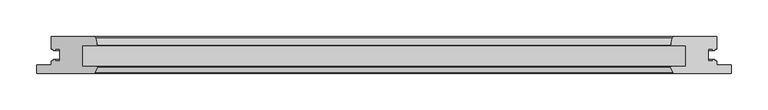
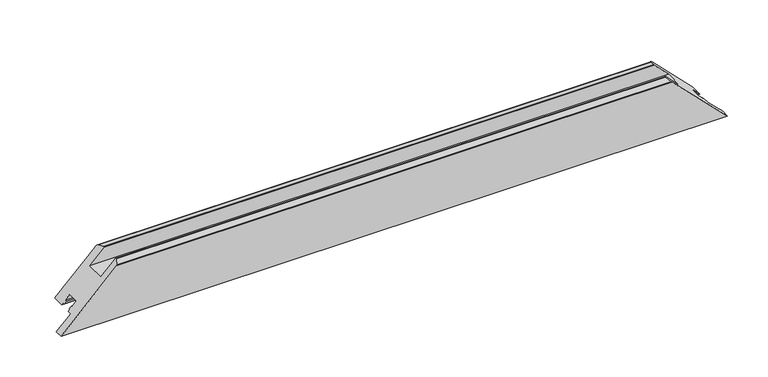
"""IFC4 building model written with IfcOpenShell, lengths in millimetres: proxy geometry, Weiku - Montante - Folha 02.2.01.017 : Weiku - Montante - Folha 02.2.01.017."""

from ifc_helpers import new_model, si_unit, frame, origin, place, context, project, spatial, ellipse_curve, source, transform, mapped, element, save
from ifc_brep_helpers import plane_surface, cylinder_surface, advanced_brep


def generic_models_91e15c3d(model_context):
    return source(origin(), model_context, "Body", "AdvancedBrep", [
        advanced_brep(
        [(-452.0, 50.0, 20.0), (-394.9997332, 50.0, 77.0002668), (394.9997332, 50.0, 77.0002668), (452.0, 50.0, 20.0), (-472.0, 0.0, 0.0), (472.0, 0.0, 0.0), (393.9872264, 0.0, 78.0127736), (-393.9872264, 0.0, 78.0127736), (-452.0, 33.1, 20.0), (-449.8, 33.1, 22.2), (-449.8, 31.1, 22.2), (-447.0, 31.1, 25.0), (-447.0, 33.1, 25.0), (-440.5, 33.1, 31.5), (-440.5, 16.9, 31.5), (-447.0, 16.9, 25.0), (-447.0, 18.9, 25.0), (-449.8, 18.9, 22.2), (-449.8, 16.9, 22.2), (-452.0, 16.9, 20.0), (-452.0, 11.5, 20.0), (-472.0, 11.5, 0.0), (-393.0932657, 0.5518546, 78.9067343), (-389.5512796, 7.617411, 82.4487204), (-390.7134285, 9.5, 81.2865715), (-410.5, 9.5, 61.5), (-410.5, 37.5, 61.5), (-390.0, 37.5, 82.0), (-389.5170371, 38.1294095, 82.4829629), (-392.1019557, 47.7764571, 79.8980443), (392.1019557, 47.7764571, 79.8980443), (389.5170371, 38.1294095, 82.4829629), (390.0, 37.5, 82.0), (410.5, 37.5, 61.5), (410.5, 9.5, 61.5), (390.7134285, 9.5, 81.2865715), (389.5512796, 7.617411, 82.4487204), (393.0932657, 0.5518546, 78.9067343), (472.0, 11.5, 0.0), (452.0, 11.5, 20.0), (452.0, 16.9, 20.0), (449.8, 16.9, 22.2), (449.8, 18.9, 22.2), (447.0, 18.9, 25.0), (447.0, 16.9, 25.0), (440.5, 16.9, 31.5), (440.5, 33.1, 31.5), (447.0, 33.1, 25.0), (447.0, 31.1, 25.0), (449.8, 31.1, 22.2), (449.8, 33.1, 22.2), (452.0, 33.1, 20.0)],
        [
            (0, 1),
            (1, 2),
            (2, 3),
            (3, 0),
            (4, 5),
            (5, 6),
            (6, 7),
            (7, 4),
            (0, 8),
            (8, 9),
            (9, 10),
            (10, 11),
            (11, 12),
            (12, 13),
            (13, 14),
            (14, 15),
            (15, 16),
            (16, 17),
            (17, 18),
            (18, 19),
            (19, 20),
            (20, 21),
            (21, 4),
            (7, 22, ellipse_curve(frame((-393.9872264, 1.0, 78.0127736), z_axis=(-0.7071067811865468, 0.0, 0.7071067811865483), x_axis=(-0.7071067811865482, 0.0, -0.7071067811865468)), 1.4142136, 1.0)),
            (22, 23),
            (23, 24, ellipse_curve(frame((-390.7134285, 8.2, 81.2865715), z_axis=(-0.7071067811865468, 0.0, 0.7071067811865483), x_axis=(-0.7071067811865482, 0.0, -0.7071067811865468)), 1.8384776, 1.3)),
            (24, 25),
            (25, 26),
            (26, 27),
            (27, 28, ellipse_curve(frame((-390.0, 38.0, 82.0), z_axis=(-0.7071067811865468, 0.0, 0.7071067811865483), x_axis=(-0.7071067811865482, 0.0, -0.7071067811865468)), 0.7071068, 0.5)),
            (28, 29),
            (29, 1, ellipse_curve(frame((-394.9997332, 47.0, 77.0002668), z_axis=(-0.7071067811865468, 0.0, 0.7071067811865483), x_axis=(-0.7071067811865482, 0.0, -0.7071067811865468)), 4.2426407, 3.0)),
            (2, 30, ellipse_curve(frame((394.9997332, 47.0, 77.0002668), z_axis=(0.7071067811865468, 0.0, 0.7071067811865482), x_axis=(-0.7071067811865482, 0.0, 0.7071067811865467)), 4.2426407, 3.0)),
            (30, 31),
            (31, 32, ellipse_curve(frame((390.0, 38.0, 82.0), z_axis=(0.7071067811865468, 0.0, 0.7071067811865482), x_axis=(-0.7071067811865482, 0.0, 0.7071067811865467)), 0.7071068, 0.5)),
            (32, 33),
            (33, 34),
            (34, 35),
            (35, 36, ellipse_curve(frame((390.7134285, 8.2, 81.2865715), z_axis=(0.7071067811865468, 0.0, 0.7071067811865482), x_axis=(-0.7071067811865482, 0.0, 0.7071067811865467)), 1.8384776, 1.3)),
            (36, 37),
            (37, 6, ellipse_curve(frame((393.9872264, 1.0, 78.0127736), z_axis=(0.7071067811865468, 0.0, 0.7071067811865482), x_axis=(-0.7071067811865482, 0.0, 0.7071067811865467)), 1.4142136, 1.0)),
            (5, 38),
            (38, 39),
            (39, 40),
            (40, 41),
            (41, 42),
            (42, 43),
            (43, 44),
            (44, 45),
            (45, 46),
            (46, 47),
            (47, 48),
            (48, 49),
            (49, 50),
            (50, 51),
            (51, 3),
            (37, 22),
            (36, 23),
            (35, 24),
            (34, 25),
            (33, 26),
            (32, 27),
            (31, 28),
            (30, 29),
            (51, 8),
            (50, 9),
            (49, 10),
            (48, 11),
            (47, 12),
            (46, 13),
            (45, 14),
            (44, 15),
            (43, 16),
            (42, 17),
            (41, 18),
            (40, 19),
            (39, 20),
            (38, 21),
        ],
        [
            plane_surface(frame((-472.0, 50.0, 77.0002668), z_axis=(0.0, 1.0, 0.0), x_axis=(1.0, 0.0, 0.0))),
            plane_surface(frame((-472.0, 0.0, 0.0), z_axis=(0.0, -1.0, 0.0), x_axis=(1.0, 0.0, 0.0))),
            plane_surface(frame((-500.2842712, 0.0, -28.2842712), z_axis=(-0.7071067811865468, 0.0, 0.7071067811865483), x_axis=(0.0, 1.0, 0.0))),
            plane_surface(frame((382.0, 0.0, 90.0), z_axis=(0.7071067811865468, 0.0, 0.7071067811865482), x_axis=(0.0, 1.0, 0.0))),
            cylinder_surface(frame((-472.0, 1.0, 78.0127736), z_axis=(-1.0, 0.0, 0.0), x_axis=(0.0, 1.0, 0.0)), 1.0),
            plane_surface(frame((-472.0, 0.5518546, 78.9067343), z_axis=(0.0, -0.4481453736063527, 0.8939606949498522), x_axis=(1.0, 0.0, 0.0))),
            cylinder_surface(frame((-472.0, 8.2, 81.2865715), z_axis=(-1.0, 0.0, 0.0), x_axis=(0.0, 1.0, 0.0)), 1.3),
            plane_surface(frame((-472.0, 9.5, 81.2865715), z_axis=(0.0, 1.0, 0.0), x_axis=(1.0, 0.0, 0.0))),
            plane_surface(frame((-472.0, 9.5, 61.5), z_axis=(0.0, 0.0, 1.0), x_axis=(1.0, 0.0, 0.0))),
            plane_surface(frame((-472.0, 37.5, 61.5), z_axis=(0.0, -1.0, 0.0), x_axis=(1.0, 0.0, 0.0))),
            cylinder_surface(frame((-472.0, 38.0, 82.0), z_axis=(-1.0, 0.0, 0.0), x_axis=(0.0, 1.0, 0.0)), 0.5),
            plane_surface(frame((-472.0, 38.1294095, 82.4829629), z_axis=(0.0, 0.2588190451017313, 0.9659258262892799), x_axis=(1.0, 0.0, 0.0))),
            cylinder_surface(frame((-472.0, 47.0, 77.0002668), z_axis=(-1.0, 0.0, 0.0), x_axis=(0.0, 1.0, 0.0)), 3.0),
            plane_surface(frame((-472.0, 50.0, 20.0), z_axis=(0.0, 0.0, -1.0), x_axis=(1.0, 0.0, 0.0))),
            plane_surface(frame((-472.0, 33.1, 20.0), z_axis=(0.0, -1.0, 0.0), x_axis=(1.0, 0.0, 0.0))),
            plane_surface(frame((-472.0, 33.1, 22.2), z_axis=(0.0, 0.0, -1.0), x_axis=(1.0, 0.0, 0.0))),
            plane_surface(frame((-472.0, 31.1, 22.2), z_axis=(0.0, -1.0, 0.0), x_axis=(1.0, 0.0, 0.0))),
            plane_surface(frame((-472.0, 31.1, 25.0), z_axis=(0.0, 0.0, 1.0), x_axis=(1.0, 0.0, 0.0))),
            plane_surface(frame((-472.0, 33.1, 25.0), z_axis=(0.0, -1.0, 0.0), x_axis=(1.0, 0.0, 0.0))),
            plane_surface(frame((-472.0, 33.1, 31.5), z_axis=(0.0, 0.0, -1.0), x_axis=(1.0, 0.0, 0.0))),
            plane_surface(frame((-472.0, 16.9, 31.5), z_axis=(0.0, 1.0, 0.0), x_axis=(1.0, 0.0, 0.0))),
            plane_surface(frame((-472.0, 16.9, 25.0), z_axis=(0.0, 0.0, 1.0), x_axis=(1.0, 0.0, 0.0))),
            plane_surface(frame((-472.0, 18.9, 25.0), z_axis=(0.0, 1.0, 0.0), x_axis=(1.0, 0.0, 0.0))),
            plane_surface(frame((-472.0, 18.9, 22.2), z_axis=(0.0, 0.0, -1.0), x_axis=(1.0, 0.0, 0.0))),
            plane_surface(frame((-472.0, 16.9, 22.2), z_axis=(0.0, 1.0, 0.0), x_axis=(1.0, 0.0, 0.0))),
            plane_surface(frame((-472.0, 16.9, 20.0), z_axis=(0.0, 0.0, -1.0), x_axis=(1.0, 0.0, 0.0))),
            plane_surface(frame((-472.0, 11.5, 20.0), z_axis=(0.0, 1.0, 0.0), x_axis=(1.0, 0.0, 0.0))),
            plane_surface(frame((-472.0, 11.5, 0.0), z_axis=(0.0, 0.0, -1.0), x_axis=(1.0, 0.0, 0.0))),
        ],
        [
            (0, [[1, 2, 3, 4]]),
            (1, [[5, 6, 7, 8]]),
            (2, [[-1, 9, 10, 11, 12, 13, 14, 15, 16, 17, 18, 19, 20, 21, 22, 23, -8, 24, 25, 26, 27, 28, 29, 30, 31, 32]]),
            (3, [[-3, 33, 34, 35, 36, 37, 38, 39, 40, 41, -6, 42, 43, 44, 45, 46, 47, 48, 49, 50, 51, 52, 53, 54, 55, 56]]),
            (4, [[-24, -7, -41, 57]]),
            (5, [[-25, -57, -40, 58]]),
            (6, [[-26, -58, -39, 59]]),
            (7, [[-27, -59, -38, 60]]),
            (8, [[-28, -60, -37, 61]]),
            (9, [[-29, -61, -36, 62]]),
            (10, [[-30, -62, -35, 63]]),
            (11, [[-31, -63, -34, 64]]),
            (12, [[-32, -64, -33, -2]]),
            (13, [[-9, -4, -56, 65]]),
            (14, [[-10, -65, -55, 66]]),
            (15, [[-11, -66, -54, 67]]),
            (16, [[-12, -67, -53, 68]]),
            (17, [[-13, -68, -52, 69]]),
            (18, [[-14, -69, -51, 70]]),
            (19, [[-15, -70, -50, 71]]),
            (20, [[-16, -71, -49, 72]]),
            (21, [[-17, -72, -48, 73]]),
            (22, [[-18, -73, -47, 74]]),
            (23, [[-19, -74, -46, 75]]),
            (24, [[-20, -75, -45, 76]]),
            (25, [[-21, -76, -44, 77]]),
            (26, [[78, -22, -77, -43]]),
            (27, [[-5, -23, -78, -42]]),
        ],
    ),
    ])


if __name__ == "__main__":
    model = new_model("IFC4")
    model_context = context("Model", 3, world=origin())
    ifc_project = project(units=[si_unit("LENGTHUNIT", "METRE", prefix="MILLI")], contexts=[model_context])
    site = spatial("IfcSite", under=ifc_project)
    building = spatial("IfcBuilding", under=site)
    placement = place(None, origin())
    generic_models_shape = generic_models_91e15c3d(model_context)
    element("IfcBuildingElementProxy", 1, Name="Weiku - Montante - Folha 02.2.01.017 : Weiku - Montante - Folha 02.2.01.017", ObjectType="Weiku - Montante - Folha 02.2.01.017 : Weiku - Montante - Folha 02.2.01.017", at=placement, inside=building, context=model_context, shape_type="MappedRepresentation", body=[
        mapped(generic_models_shape, transform((0.0, 0.0, 0.0), x_axis=(1.0, 0.0, 0.0), y_axis=(0.0, 1.0, 0.0), z_axis=(0.0, 0.0, 1.0))),
    ])
    save(model, "model.ifc")
